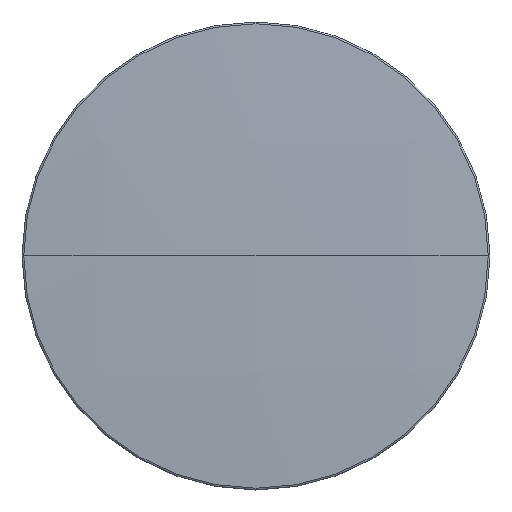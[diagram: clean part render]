
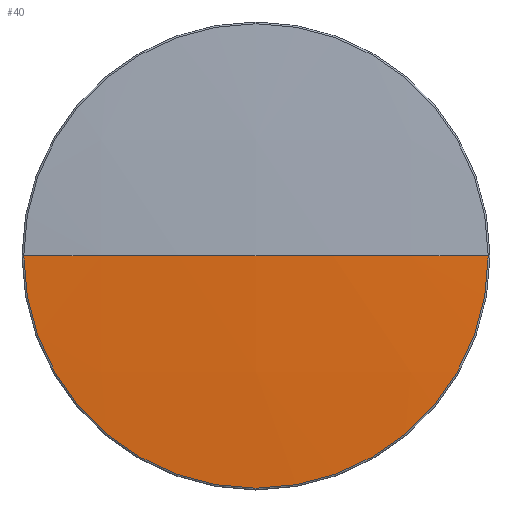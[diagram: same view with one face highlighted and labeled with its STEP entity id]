
A CAD part, top view. The second image highlights one B-rep face of the part: STEP entity #40.
In plain terms, the highlighted spherical face has radius 400 mm.
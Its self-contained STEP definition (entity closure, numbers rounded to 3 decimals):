
#40 = ADVANCED_FACE ( 'NONE', ( #88 ), #2225, .T. ) ;
#83 = EDGE_LOOP ( 'NONE', ( #126, #1648, #522, #3567 ) ) ;
#88 = FACE_OUTER_BOUND ( 'NONE', #83, .T. ) ;
#126 = ORIENTED_EDGE ( 'NONE', *, *, #1127, .F. ) ;
#205 = CARTESIAN_POINT ( 'NONE',  ( -4.796, -24.812, 29.23 ) ) ;
#349 = AXIS2_PLACEMENT_3D ( 'NONE', #4081, #3758, #3017 ) ;
#495 = CARTESIAN_POINT ( 'NONE',  ( -4.796, 0., 30. ) ) ;
#522 = ORIENTED_EDGE ( 'NONE', *, *, #3656, .T. ) ;
#538 = EDGE_CURVE ( 'NONE', #3181, #1249, #1365, .T. ) ;
#657 = AXIS2_PLACEMENT_3D ( 'NONE', #2273, #2995, #944 ) ;
#889 = VERTEX_POINT ( 'NONE', #205 ) ;
#944 = DIRECTION ( 'NONE',  ( 0., 0., -1. ) ) ;
#977 = DIRECTION ( 'NONE',  ( 0., 1., 0. ) ) ;
#1127 = EDGE_CURVE ( 'NONE', #3181, #1763, #1245, .T. ) ;
#1228 = CIRCLE ( 'NONE', #1865, 24.812 ) ;
#1245 = CIRCLE ( 'NONE', #349, 400. ) ;
#1249 = VERTEX_POINT ( 'NONE', #3087 ) ;
#1365 = CIRCLE ( 'NONE', #657, 400. ) ;
#1648 = ORIENTED_EDGE ( 'NONE', *, *, #538, .T. ) ;
#1763 = VERTEX_POINT ( 'NONE', #2251 ) ;
#1865 = AXIS2_PLACEMENT_3D ( 'NONE', #3689, #3999, #977 ) ;
#2225 = SPHERICAL_SURFACE ( 'NONE', #4261, 400. ) ;
#2251 = CARTESIAN_POINT ( 'NONE',  ( 20.017, 0., 29.23 ) ) ;
#2273 = CARTESIAN_POINT ( 'NONE',  ( -4.796, 0., -370. ) ) ;
#2896 = DIRECTION ( 'NONE',  ( 0., 1., 0. ) ) ;
#2995 = DIRECTION ( 'NONE',  ( 0., -1., 0. ) ) ;
#3017 = DIRECTION ( 'NONE',  ( 0., 0., 1. ) ) ;
#3087 = CARTESIAN_POINT ( 'NONE',  ( -29.608, 0., 29.23 ) ) ;
#3181 = VERTEX_POINT ( 'NONE', #495 ) ;
#3211 = CIRCLE ( 'NONE', #3297, 24.812 ) ;
#3275 = DIRECTION ( 'NONE',  ( 0., -1., 0. ) ) ;
#3293 = DIRECTION ( 'NONE',  ( 1., 0., 0. ) ) ;
#3297 = AXIS2_PLACEMENT_3D ( 'NONE', #4284, #4243, #2896 ) ;
#3531 = CARTESIAN_POINT ( 'NONE',  ( -4.796, 0., -370. ) ) ;
#3567 = ORIENTED_EDGE ( 'NONE', *, *, #4097, .T. ) ;
#3656 = EDGE_CURVE ( 'NONE', #1249, #889, #1228, .T. ) ;
#3689 = CARTESIAN_POINT ( 'NONE',  ( -4.796, 0., 29.23 ) ) ;
#3758 = DIRECTION ( 'NONE',  ( 0., 1., 0. ) ) ;
#3999 = DIRECTION ( 'NONE',  ( 0., 0., 1. ) ) ;
#4081 = CARTESIAN_POINT ( 'NONE',  ( -4.796, 0., -370. ) ) ;
#4097 = EDGE_CURVE ( 'NONE', #889, #1763, #3211, .T. ) ;
#4243 = DIRECTION ( 'NONE',  ( 0., 0., 1. ) ) ;
#4261 = AXIS2_PLACEMENT_3D ( 'NONE', #3531, #3275, #3293 ) ;
#4284 = CARTESIAN_POINT ( 'NONE',  ( -4.796, 0., 29.23 ) ) ;
